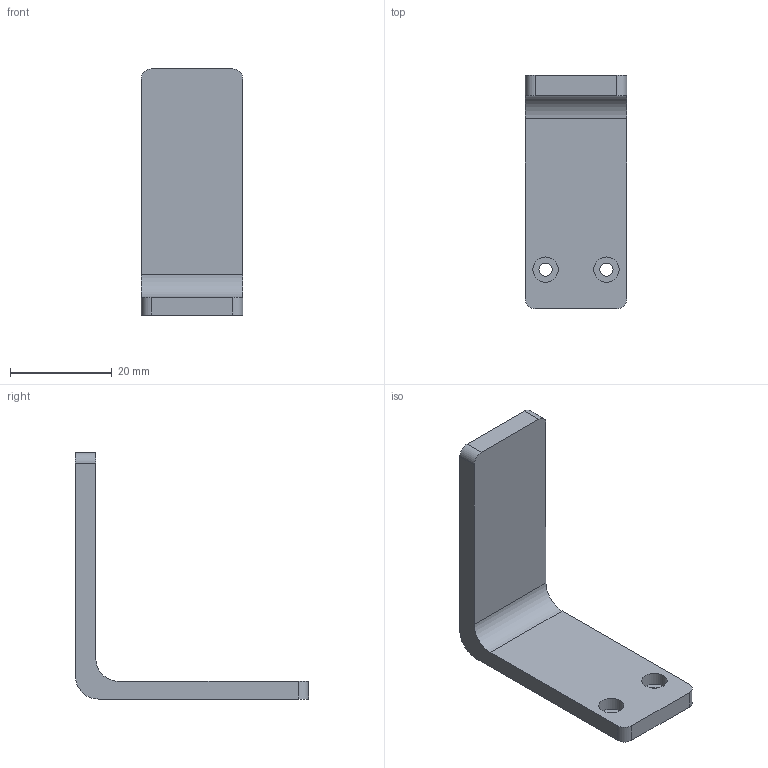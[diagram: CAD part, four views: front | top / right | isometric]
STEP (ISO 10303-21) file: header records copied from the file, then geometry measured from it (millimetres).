
FILE_DESCRIPTION(/* description */ (''),/* implementation_level */ '2;1');
FILE_NAME(/* name */ 'ORA Flat Jaw Large.step',/* time_stamp */ '2024-09-26T15:29:14-07:00',/* author */ (''),/* organization */ (''),/* preprocessor_version */ 'ST-DEVELOPER v20',/* originating_system */ 'Autodesk Translation Framework v13.20.0.188',/* authorisation */ '');
FILE_SCHEMA (('AUTOMOTIVE_DESIGN { 1 0 10303 214 3 1 1 }'));
Length unit declared in the file: millimetre
Products named in the file (1): Gripper Lite Alternate Jaw
Bounding box: 20 x 45.9 x 48.5 mm (x, y, z)
Volume: 6688.5 mm3; surface area: 4435.4 mm2
Topology: 1 solids, 1 shells, 20 faces, 48 edges, 32 vertices
Faces by surface type: cylinder 10, plane 10
Full cylindrical faces by diameter (mm): 2.6 x2, 5 x2
Entity records: 647 total; most frequent: DIRECTION 110, CARTESIAN_POINT 101, ORIENTED_EDGE 96, EDGE_CURVE 48, AXIS2_PLACEMENT_3D 41, VERTEX_POINT 32, LINE 28, VECTOR 28
